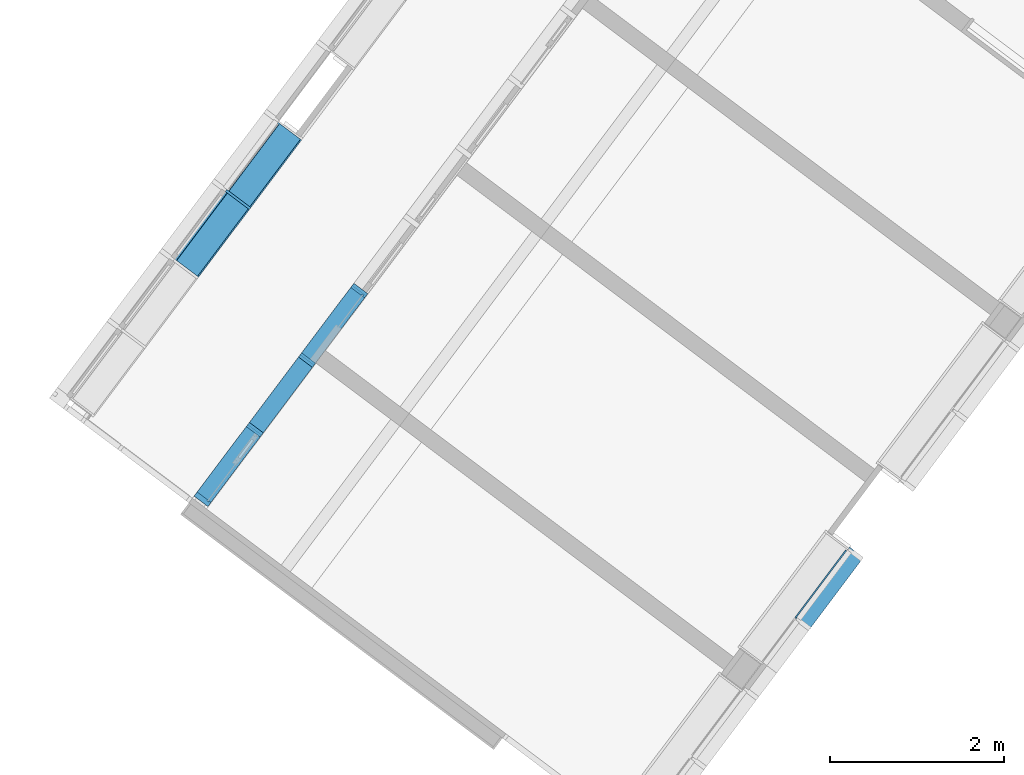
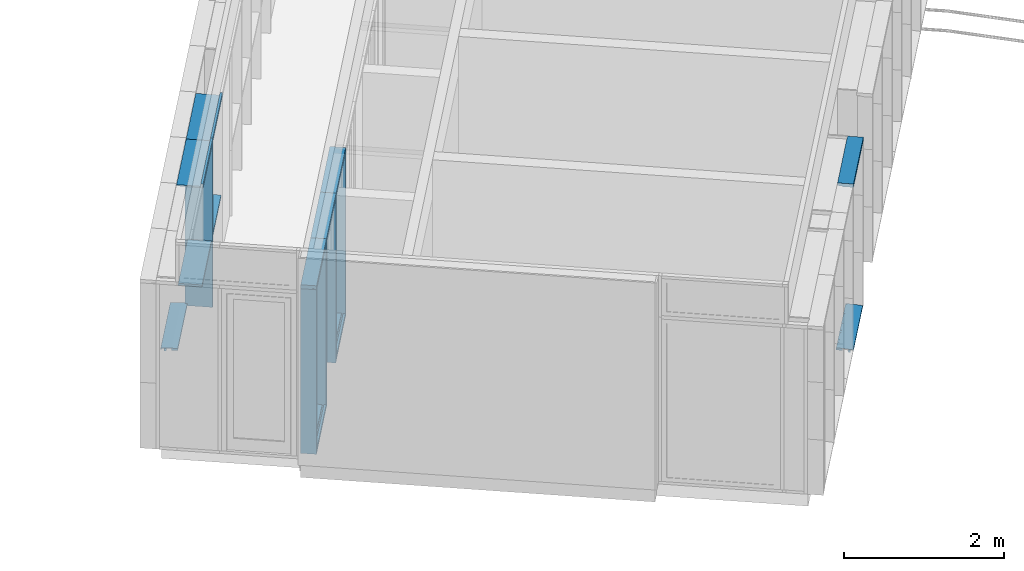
# One storey, part 16 of 243: 18 members, 4 elements without a shape of their own.
"""IFC2X3 building model written with IfcOpenShell, lengths in metres."""

from ifc_helpers import new_model, entity, si_unit, converted_unit, derived_unit, direction, frame, frame_2d, origin, place, context, subcontext, project, spatial, polyline, circle_curve, parameter, trimmed, segment, composite_curve, rectangle, outline, extrude, source, transform, mapped, material, type_object, type_shapes, element, aggregate, save


model = new_model("IFC2X3")

# Units and contexts
model_context = context("Model", 3, precision=1e-05, world=origin(), true_north=direction((6.123031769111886e-17, 1.0)))
body_context = subcontext(model_context, "Body", "Model", "MODEL_VIEW")
ifc_project = project(units=[si_unit("LENGTHUNIT", "METRE"), si_unit("AREAUNIT", "SQUARE_METRE"), si_unit("VOLUMEUNIT", "CUBIC_METRE"), converted_unit("PLANEANGLEUNIT", "DEGREE", entity("IfcRatioMeasure", 0.017453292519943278), si_unit("PLANEANGLEUNIT", "RADIAN"), dimensions=[0, 0, 0, 0, 0, 0, 0]), si_unit("MASSUNIT", "GRAM", prefix="KILO"), derived_unit("MASSDENSITYUNIT", [(si_unit("MASSUNIT", "GRAM", prefix="KILO"), 1), (si_unit("LENGTHUNIT", "METRE"), -3)]), derived_unit("IONCONCENTRATIONUNIT", [(si_unit("MASSUNIT", "GRAM", prefix="KILO"), 1), (si_unit("LENGTHUNIT", "METRE"), -3)]), derived_unit("MOMENTOFINERTIAUNIT", [(si_unit("LENGTHUNIT", "METRE"), 4)]), si_unit("TIMEUNIT", "SECOND"), si_unit("FREQUENCYUNIT", "HERTZ"), si_unit("THERMODYNAMICTEMPERATUREUNIT", "DEGREE_CELSIUS"), derived_unit("THERMALTRANSMITTANCEUNIT", [(si_unit("MASSUNIT", "GRAM", prefix="KILO"), 1), (si_unit("THERMODYNAMICTEMPERATUREUNIT", "KELVIN"), -1), (si_unit("TIMEUNIT", "SECOND"), -3)]), derived_unit("THERMALCONDUCTANCEUNIT", [(si_unit("MASSUNIT", "GRAM", prefix="KILO"), 1), (si_unit("THERMODYNAMICTEMPERATUREUNIT", "KELVIN"), -1), (si_unit("TIMEUNIT", "SECOND"), -3), (si_unit("LENGTHUNIT", "METRE"), 1)]), derived_unit("VOLUMETRICFLOWRATEUNIT", [(si_unit("LENGTHUNIT", "METRE"), 3), (si_unit("TIMEUNIT", "SECOND"), -1)]), derived_unit("MASSFLOWRATEUNIT", [(si_unit("MASSUNIT", "GRAM", prefix="KILO"), 1), (si_unit("TIMEUNIT", "SECOND"), -1)]), derived_unit("ROTATIONALFREQUENCYUNIT", [(si_unit("TIMEUNIT", "SECOND"), -1)]), si_unit("ELECTRICCURRENTUNIT", "AMPERE"), si_unit("ELECTRICVOLTAGEUNIT", "VOLT"), si_unit("POWERUNIT", "WATT"), si_unit("FORCEUNIT", "NEWTON", prefix="KILO"), si_unit("ILLUMINANCEUNIT", "LUX"), si_unit("LUMINOUSFLUXUNIT", "LUMEN"), si_unit("LUMINOUSINTENSITYUNIT", "CANDELA"), derived_unit("USERDEFINED", [(si_unit("MASSUNIT", "GRAM", prefix="KILO"), -1), (si_unit("LENGTHUNIT", "METRE"), -2), (si_unit("TIMEUNIT", "SECOND"), 3), (si_unit("LUMINOUSFLUXUNIT", "LUMEN"), 1)]), derived_unit("USERDEFINED", [(si_unit("MASSUNIT", "GRAM", prefix="KILO"), 1), (si_unit("TIMEUNIT", "SECOND"), -3), (si_unit("LENGTHUNIT", "METRE"), 3), (si_unit("ELECTRICCURRENTUNIT", "AMPERE"), -2)]), derived_unit("SOUNDPOWERUNIT", [(si_unit("MASSUNIT", "GRAM", prefix="KILO"), 1), (si_unit("TIMEUNIT", "SECOND"), -3), (si_unit("LENGTHUNIT", "METRE"), 2)]), derived_unit("SOUNDPRESSUREUNIT", [(si_unit("MASSUNIT", "GRAM", prefix="KILO"), 1), (si_unit("LENGTHUNIT", "METRE"), -1), (si_unit("TIMEUNIT", "SECOND"), -2)]), derived_unit("LINEARVELOCITYUNIT", [(si_unit("LENGTHUNIT", "METRE"), 1), (si_unit("TIMEUNIT", "SECOND"), -1)]), si_unit("PRESSUREUNIT", "PASCAL"), derived_unit("USERDEFINED", [(si_unit("MASSUNIT", "GRAM", prefix="KILO"), 1), (si_unit("LENGTHUNIT", "METRE"), -2), (si_unit("TIMEUNIT", "SECOND"), -2)]), derived_unit("LINEARFORCEUNIT", [(si_unit("MASSUNIT", "GRAM", prefix="KILO"), 1), (si_unit("TIMEUNIT", "SECOND"), -2)]), derived_unit("PLANARFORCEUNIT", [(si_unit("MASSUNIT", "GRAM", prefix="KILO"), 1), (si_unit("LENGTHUNIT", "METRE"), -1), (si_unit("TIMEUNIT", "SECOND"), -2)]), derived_unit("SPECIFICHEATCAPACITYUNIT", [(si_unit("THERMODYNAMICTEMPERATUREUNIT", "KELVIN"), -1), (si_unit("LENGTHUNIT", "METRE"), 2), (si_unit("TIMEUNIT", "SECOND"), -2)]), derived_unit("HEATINGVALUEUNIT", [(si_unit("LENGTHUNIT", "METRE"), 2), (si_unit("TIMEUNIT", "SECOND"), -2)]), derived_unit("VAPORPERMEABILITYUNIT", [(si_unit("LENGTHUNIT", "METRE"), -1), (si_unit("TIMEUNIT", "SECOND"), 1)]), derived_unit("DYNAMICVISCOSITYUNIT", [(si_unit("MASSUNIT", "GRAM", prefix="KILO"), 1), (si_unit("TIMEUNIT", "SECOND"), -1), (si_unit("LENGTHUNIT", "METRE"), -1)]), derived_unit("THERMALEXPANSIONCOEFFICIENTUNIT", [(si_unit("THERMODYNAMICTEMPERATUREUNIT", "KELVIN"), -1)]), derived_unit("MODULUSOFELASTICITYUNIT", [(si_unit("MASSUNIT", "GRAM", prefix="KILO"), 1), (si_unit("LENGTHUNIT", "METRE"), -1), (si_unit("TIMEUNIT", "SECOND"), -2)]), derived_unit("ISOTHERMALMOISTURECAPACITYUNIT", [(si_unit("LENGTHUNIT", "METRE"), 3), (si_unit("MASSUNIT", "GRAM", prefix="KILO"), -1)]), derived_unit("MOISTUREDIFFUSIVITYUNIT", [(si_unit("TIMEUNIT", "SECOND"), -1), (si_unit("LENGTHUNIT", "METRE"), 2)])], contexts=[model_context])

# Site, building, storey
site_placement = place(None, frame((0.0, 0.0, 235.0), z_axis=(0.0, 0.0, 1.0), x_axis=(-0.7996477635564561, 0.6004693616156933, 0.0)))
site = spatial("IfcSite", under=ifc_project, at=site_placement, Name="Default", CompositionType="ELEMENT")
building_placement = place(site_placement, origin())
building = spatial("IfcBuilding", under=site, at=building_placement, CompositionType="ELEMENT")
storey_placement = place(building_placement, origin())
storey = spatial("IfcBuildingStorey", under=building, at=storey_placement, Name="P0- Escola", CompositionType="ELEMENT", Elevation=0.0)

# Curtain wall, members
curtain_wall_type_1 = type_object("IfcCurtainWallType", Name="Muro cortina:MC- INT- a2", PredefinedType="NOTDEFINED")
curtain_wall_1_placement = place(storey_placement, origin())
curtain_wall_1 = element("IfcCurtainWall", 1, at=curtain_wall_1_placement, inside=storey, type_object=curtain_wall_type_1, Name="Muro cortina:MC- INT- a2", ObjectType="Muro cortina:MC- INT- a2")
ifc_material_1 = material(Name="_Fusta massisa- T1")
member_type_1 = type_object("IfcMemberType", Name="Montante rectangular:MC- Fusta- 20x6 cm- Neutre", PredefinedType="MULLION", material=ifc_material_1)
shared_shape_1 = source(origin(), body_context, "Body", "SweptSolid", [
    extrude(rectangle(XDim=0.2, YDim=0.06, at=frame_2d((-5.551115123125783e-17, 0.0), x_axis=(1.0, 0.0))), frame((0.0, 0.060000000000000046, -2.5050000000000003), z_axis=(0.0, 0.0, 1.0), x_axis=(0.0, -1.0, 0.0)), (0.0, 0.0, 1.0), 2.5050000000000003),
])
type_shapes(member_type_1, [shared_shape_1])
member_1_placement = place(curtain_wall_1_placement, frame((34.62014768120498, -22.415191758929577, 0.0), z_axis=(0.0, 0.0, -1.0), x_axis=(0.0, 1.0, 0.0)))
member_1 = element("IfcMember", 2, at=member_1_placement, type_object=member_type_1, material=ifc_material_1, Name="Montante rectangular:MC- Fusta- 20x6 cm- Neutre", ObjectType="Montante rectangular:MC- Fusta- 20x6 cm- Neutre", context=body_context, shape_type="MappedRepresentation", body=[
    mapped(shared_shape_1, transform((0.0, 0.0, 0.0), scale=1.0)),
])
member_2_placement = place(curtain_wall_1_placement, frame((34.62014768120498, -21.415191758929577, 0.0), z_axis=(0.0, 0.0, -1.0), x_axis=(0.0, 1.0, 0.0)))
member_2 = element("IfcMember", 3, at=member_2_placement, type_object=member_type_1, material=ifc_material_1, Name="Montante rectangular:MC- Fusta- 20x6 cm- Neutre", ObjectType="Montante rectangular:MC- Fusta- 20x6 cm- Neutre", context=body_context, shape_type="MappedRepresentation", body=[
    mapped(shared_shape_1, transform((0.0, 0.0, 0.0), scale=1.0)),
])
member_type_2 = type_object("IfcMemberType", Name="Montante rectangular:MC- Fusta- 20x6 cm- Neutre", PredefinedType="MULLION", material=ifc_material_1)
shared_shape_2 = source(origin(), body_context, "Body", "SweptSolid", [
    extrude(rectangle(XDim=0.20000000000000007, YDim=0.06, at=frame_2d((-5.551115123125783e-17, 0.0), x_axis=(1.0, 0.0))), frame((-0.03, 0.06000000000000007, -1.0), z_axis=(0.0, 0.0, 1.0), x_axis=(0.0, -1.0, 0.0)), (0.0, 0.0, 1.0), 0.9999999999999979),
])
type_shapes(member_type_2, [shared_shape_2])
member_3_placement = place(curtain_wall_1_placement, frame((34.62014768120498, -21.415191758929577, 2.565), z_axis=(0.0, 1.0, 0.0), x_axis=(0.0, 0.0, 1.0)))
member_3 = element("IfcMember", 4, at=member_3_placement, type_object=member_type_2, material=ifc_material_1, Name="Montante rectangular:MC- Fusta- 20x6 cm- Neutre", ObjectType="Montante rectangular:MC- Fusta- 20x6 cm- Neutre", context=body_context, shape_type="MappedRepresentation", body=[
    mapped(shared_shape_2, transform((0.0, 0.0, 0.0), scale=1.0)),
])
member_type_3 = type_object("IfcMemberType", Name="Montante rectangular:MC- Fusta- 20x6 cm- Dreta", PredefinedType="MULLION", material=ifc_material_1)
shared_shape_3 = source(origin(), body_context, "Body", "SweptSolid", [
    extrude(outline(polyline([(-0.13000000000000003, -0.041249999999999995), (0.07000000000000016, -0.041249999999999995), (0.06999999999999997, 0.01875), (0.039999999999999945, 0.01875), (0.03999999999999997, 0.00375), (0.019999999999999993, 0.00375), (0.019999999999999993, 0.01875), (-0.13000000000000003, 0.01875), (-0.13000000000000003, -0.041249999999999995)])), frame((0.011250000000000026, 0.029999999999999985, -2.5050000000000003), z_axis=(0.0, 0.0, 1.0), x_axis=(0.0, -1.0, 0.0)), (0.0, 0.0, 1.0), 2.5050000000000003),
])
type_shapes(member_type_3, [shared_shape_3])
member_4_placement = place(curtain_wall_1_placement, frame((34.62014768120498, -23.415191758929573, 0.0), z_axis=(0.0, 0.0, -1.0), x_axis=(0.0, 1.0, 0.0)))
member_4 = element("IfcMember", 5, at=member_4_placement, type_object=member_type_3, material=ifc_material_1, Name="Montante rectangular:MC- Fusta- 20x6 cm- Dreta", ObjectType="Montante rectangular:MC- Fusta- 20x6 cm- Dreta", context=body_context, shape_type="MappedRepresentation", body=[
    mapped(shared_shape_3, transform((0.0, 0.0, 0.0), scale=1.0)),
])
member_type_4 = type_object("IfcMemberType", Name="Montante rectangular:MC- Fusta- 20x6 cm- Inferior", PredefinedType="MULLION", material=ifc_material_1)
shared_shape_4 = source(origin(), body_context, "Body", "SweptSolid", [
    extrude(outline(polyline([(-0.12999999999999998, -0.018750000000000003), (0.01999999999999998, -0.018750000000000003), (0.01999999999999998, -0.0037500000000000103), (0.04, -0.0037500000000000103), (0.039999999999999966, -0.018750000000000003), (0.06999999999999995, -0.018750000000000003), (0.07000000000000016, 0.041249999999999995), (-0.12999999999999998, 0.041249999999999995), (-0.12999999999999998, -0.018750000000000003)])), frame((-0.041249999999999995, 0.029999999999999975, -0.9399999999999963), z_axis=(0.0, 0.0, 1.0), x_axis=(0.0, -1.0, 0.0)), (0.0, 0.0, 1.0), 0.9399999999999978),
])
type_shapes(member_type_4, [shared_shape_4])
member_5_placement = place(curtain_wall_1_placement, frame((34.62014768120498, -23.385191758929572, 0.0), z_axis=(0.0, -1.0, 0.0), x_axis=(0.0, 0.0, -1.0)))
member_5 = element("IfcMember", 6, at=member_5_placement, type_object=member_type_4, material=ifc_material_1, Name="Montante rectangular:MC- Fusta- 20x6 cm- Inferior", ObjectType="Montante rectangular:MC- Fusta- 20x6 cm- Inferior", context=body_context, shape_type="MappedRepresentation", body=[
    mapped(shared_shape_4, transform((0.0, 0.0, 0.0), scale=1.0)),
])
member_6_placement = place(curtain_wall_1_placement, frame((34.62014768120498, -21.385191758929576, 0.0), z_axis=(0.0, -1.0, 0.0), x_axis=(0.0, 0.0, -1.0)))
member_6 = element("IfcMember", 7, at=member_6_placement, type_object=member_type_4, material=ifc_material_1, Name="Montante rectangular:MC- Fusta- 20x6 cm- Inferior", ObjectType="Montante rectangular:MC- Fusta- 20x6 cm- Inferior", context=body_context, shape_type="MappedRepresentation", body=[
    mapped(shared_shape_4, transform((0.0, 0.0, 0.0), scale=1.0)),
])
member_type_5 = type_object("IfcMemberType", Name="Montante rectangular:MC- Fusta- 20x6 cm- Esquerra", PredefinedType="MULLION", material=ifc_material_1)
shared_shape_5 = source(origin(), body_context, "Body", "SweptSolid", [
    extrude(outline(polyline([(-0.13, -0.018750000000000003), (0.02, -0.018750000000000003), (0.02, -0.003750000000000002), (0.04000000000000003, -0.003750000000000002), (0.04000000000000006, -0.01875000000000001), (0.07000000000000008, -0.018750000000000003), (0.06999999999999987, 0.041249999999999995), (-0.13, 0.041249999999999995), (-0.13, -0.018750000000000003)])), frame((-0.041249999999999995, 0.029999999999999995, -2.5050000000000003), z_axis=(0.0, 0.0, 1.0), x_axis=(0.0, -1.0, 0.0)), (0.0, 0.0, 1.0), 2.5050000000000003),
])
type_shapes(member_type_5, [shared_shape_5])
member_7_placement = place(curtain_wall_1_placement, frame((34.62014768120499, -20.38519175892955, 0.0), z_axis=(0.0, 0.0, -1.0), x_axis=(0.0, 1.0, 0.0)))
member_7 = element("IfcMember", 8, at=member_7_placement, type_object=member_type_5, material=ifc_material_1, Name="Montante rectangular:MC- Fusta- 20x6 cm- Esquerra", ObjectType="Montante rectangular:MC- Fusta- 20x6 cm- Esquerra", context=body_context, shape_type="MappedRepresentation", body=[
    mapped(shared_shape_5, transform((0.0, 0.0, 0.0), scale=1.0)),
])
member_type_6 = type_object("IfcMemberType", Name="Montante rectangular:MC- Fusta- 20x6 cm- Esquerra", PredefinedType="MULLION", material=ifc_material_1)
shared_shape_6 = source(origin(), body_context, "Body", "SweptSolid", [
    extrude(outline(polyline([(-0.13000000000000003, -0.018750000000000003), (0.020000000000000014, -0.018750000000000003), (0.020000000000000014, -0.003750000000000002), (0.040000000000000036, -0.003750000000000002), (0.04000000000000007, -0.01875000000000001), (0.07000000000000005, -0.018750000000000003), (0.06999999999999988, 0.041249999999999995), (-0.13000000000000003, 0.041249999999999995), (-0.13000000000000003, -0.018750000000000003)])), frame((-0.041249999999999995, 0.030000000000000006, -1.0300000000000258), z_axis=(0.0, 0.0, 1.0), x_axis=(0.0, -1.0, 0.0)), (0.0, 0.0, 1.0), 1.0300000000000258),
])
type_shapes(member_type_6, [shared_shape_6])
member_8_placement = place(curtain_wall_1_placement, frame((34.62014768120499, -20.38519175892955, 2.565), z_axis=(0.0, 1.0, 0.0), x_axis=(0.0, 0.0, 1.0)))
member_8 = element("IfcMember", 9, at=member_8_placement, type_object=member_type_6, material=ifc_material_1, Name="Montante rectangular:MC- Fusta- 20x6 cm- Esquerra", ObjectType="Montante rectangular:MC- Fusta- 20x6 cm- Esquerra", context=body_context, shape_type="MappedRepresentation", body=[
    mapped(shared_shape_6, transform((0.0, 0.0, 0.0), scale=1.0)),
])
member_type_7 = type_object("IfcMemberType", Name="Montante rectangular:MC- Fusta- 20x6 cm- Esquerra", PredefinedType="MULLION", material=ifc_material_1)
shared_shape_7 = source(origin(), body_context, "Body", "SweptSolid", [
    extrude(outline(polyline([(-0.13000000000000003, -0.018750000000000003), (0.020000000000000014, -0.018750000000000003), (0.020000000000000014, -0.003750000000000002), (0.040000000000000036, -0.003750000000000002), (0.04000000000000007, -0.01875000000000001), (0.07000000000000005, -0.018750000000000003), (0.06999999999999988, 0.041249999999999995), (-0.13000000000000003, 0.041249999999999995), (-0.13000000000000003, -0.018750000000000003)])), frame((-0.041249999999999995, 0.030000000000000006, -1.0), z_axis=(0.0, 0.0, 1.0), x_axis=(0.0, -1.0, 0.0)), (0.0, 0.0, 1.0), 0.9999999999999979),
])
type_shapes(member_type_7, [shared_shape_7])
member_9_placement = place(curtain_wall_1_placement, frame((34.62014768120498, -22.415191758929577, 2.565), z_axis=(0.0, 1.0, 0.0), x_axis=(0.0, 0.0, 1.0)))
member_9 = element("IfcMember", 10, at=member_9_placement, type_object=member_type_7, material=ifc_material_1, Name="Montante rectangular:MC- Fusta- 20x6 cm- Esquerra", ObjectType="Montante rectangular:MC- Fusta- 20x6 cm- Esquerra", context=body_context, shape_type="MappedRepresentation", body=[
    mapped(shared_shape_7, transform((0.0, 0.0, 0.0), scale=1.0)),
])
aggregate(curtain_wall_1, [member_7, member_8, member_4, member_9, member_1, member_3, member_2, member_5, member_6])

curtain_wall_type_2 = type_object("IfcCurtainWallType", Name="Muro cortina:MC- INT- k2", PredefinedType="NOTDEFINED")
curtain_wall_2_placement = place(storey_placement, origin())
curtain_wall_2 = element("IfcCurtainWall", 11, at=curtain_wall_2_placement, inside=storey, type_object=curtain_wall_type_2, Name="Muro cortina:MC- INT- k2", ObjectType="Muro cortina:MC- INT- k2")
member_type_8 = type_object("IfcMemberType", Name="Montante rectangular:MC- Fusta- 35x3 cm- Centre", PredefinedType="MULLION", material=ifc_material_1)
shared_shape_8 = source(origin(), body_context, "Body", "SweptSolid", [
    extrude(rectangle(XDim=0.3450000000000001, YDim=0.030000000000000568, at=frame_2d((0.0, -1.3964523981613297e-16), x_axis=(1.0, 0.0))), frame((0.0, -0.07750000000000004, -1.0), z_axis=(0.0, 0.0, 1.0), x_axis=(0.0, -1.0, 0.0)), (0.0, 0.0, 1.0), 1.0),
])
type_shapes(member_type_8, [shared_shape_8])
member_10_placement = place(curtain_wall_2_placement, frame((36.345147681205, -23.4151917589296, 0.0), z_axis=(0.0, 0.0, -1.0), x_axis=(0.0, -1.0, 0.0)))
member_10 = element("IfcMember", 12, at=member_10_placement, type_object=member_type_8, material=ifc_material_1, Name="Montante rectangular:MC- Fusta- 35x3 cm- Centre", ObjectType="Montante rectangular:MC- Fusta- 35x3 cm- Centre", context=body_context, shape_type="MappedRepresentation", body=[
    mapped(shared_shape_8, transform((0.0, 0.0, 0.0), scale=1.0)),
])
member_type_9 = type_object("IfcMemberType", Name="Montante rectangular:MC- Fusta- 35x3 cm- Pati aules- Remat superior", PredefinedType="MULLION", material=ifc_material_1)
shared_shape_9 = source(origin(), body_context, "Body", "SweptSolid", [
    extrude(outline(polyline([(-0.12166666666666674, -0.02666666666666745), (0.21333333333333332, -0.02666666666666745), (0.2133333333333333, -0.006666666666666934), (-0.09166666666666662, -0.006666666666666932), (-0.09166666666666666, 0.03333333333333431), (-0.12166666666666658, 0.03333333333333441), (-0.12166666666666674, -0.02666666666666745)])), frame((-0.033333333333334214, -0.026666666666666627, -1.0), z_axis=(0.0, 0.0, 1.0), x_axis=(0.0, -1.0, 0.0)), (0.0, 0.0, 1.0), 0.9999999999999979),
])
type_shapes(member_type_9, [shared_shape_9])
member_11_placement = place(curtain_wall_2_placement, frame((36.345147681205, -23.4151917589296, 2.565), z_axis=(0.0, -1.0, 0.0), x_axis=(0.0, 0.0, 1.0)))
member_11 = element("IfcMember", 13, at=member_11_placement, type_object=member_type_9, material=ifc_material_1, Name="Montante rectangular:MC- Fusta- 35x3 cm- Pati aules- Remat superior", ObjectType="Montante rectangular:MC- Fusta- 35x3 cm- Pati aules- Remat superior", context=body_context, shape_type="MappedRepresentation", body=[
    mapped(shared_shape_9, transform((0.0, 0.0, 0.0), scale=1.0)),
])
member_type_10 = type_object("IfcMemberType", Name="Montante rectangular:MC- Fusta- 35x3 cm- Pati aules- Remat superior", PredefinedType="MULLION", material=ifc_material_1)
shared_shape_10 = source(origin(), body_context, "Body", "SweptSolid", [
    extrude(outline(polyline([(-0.12166666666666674, -0.02666666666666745), (0.21333333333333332, -0.02666666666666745), (0.2133333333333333, -0.006666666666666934), (-0.09166666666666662, -0.006666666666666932), (-0.09166666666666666, 0.03333333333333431), (-0.12166666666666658, 0.03333333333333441), (-0.12166666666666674, -0.02666666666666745)])), frame((-0.033333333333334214, -0.026666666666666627, -1.0), z_axis=(0.0, 0.0, 1.0), x_axis=(0.0, -1.0, 0.0)), (0.0, 0.0, 1.0), 0.9999999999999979),
])
type_shapes(member_type_10, [shared_shape_10])
member_12_placement = place(curtain_wall_2_placement, frame((36.345147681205, -24.4151917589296, 2.565), z_axis=(0.0, -1.0, 0.0), x_axis=(0.0, 0.0, 1.0)))
member_12 = element("IfcMember", 14, at=member_12_placement, type_object=member_type_10, material=ifc_material_1, Name="Montante rectangular:MC- Fusta- 35x3 cm- Pati aules- Remat superior", ObjectType="Montante rectangular:MC- Fusta- 35x3 cm- Pati aules- Remat superior", context=body_context, shape_type="MappedRepresentation", body=[
    mapped(shared_shape_10, transform((0.0, 0.0, 0.0), scale=1.0)),
])
member_type_11 = type_object("IfcMemberType", Name="Montante rectangular:MC- Fusta- 35x3 cm- Pati aules- Prestatge", PredefinedType="MULLION", material=ifc_material_1)
shared_shape_11 = source(origin(), body_context, "Body", "SweptSolid", [
    extrude(rectangle(XDim=0.30000000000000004, YDim=0.03000000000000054, at=frame_2d((0.0, -1.231653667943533e-16), x_axis=(1.0, 0.0))), frame((0.0, -0.07000000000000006, -0.9699999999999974), z_axis=(0.0, 0.0, 1.0), x_axis=(0.0, -1.0, 0.0)), (0.0, 0.0, 1.0), 0.969999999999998),
])
type_shapes(member_type_11, [shared_shape_11])
member_13_placement = place(curtain_wall_2_placement, frame((36.345147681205, -23.400191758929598, 1.0), z_axis=(0.0, -1.0, 0.0), x_axis=(0.0, 0.0, 1.0)))
member_13 = element("IfcMember", 15, at=member_13_placement, type_object=member_type_11, material=ifc_material_1, Name="Montante rectangular:MC- Fusta- 35x3 cm- Pati aules- Prestatge", ObjectType="Montante rectangular:MC- Fusta- 35x3 cm- Pati aules- Prestatge", context=body_context, shape_type="MappedRepresentation", body=[
    mapped(shared_shape_11, transform((0.0, 0.0, 0.0), scale=1.0)),
])
member_14_placement = place(curtain_wall_2_placement, frame((36.345147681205, -24.400191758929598, 1.0), z_axis=(0.0, -1.0, 0.0), x_axis=(0.0, 0.0, 1.0)))
member_14 = element("IfcMember", 16, at=member_14_placement, type_object=member_type_11, material=ifc_material_1, Name="Montante rectangular:MC- Fusta- 35x3 cm- Pati aules- Prestatge", ObjectType="Montante rectangular:MC- Fusta- 35x3 cm- Pati aules- Prestatge", context=body_context, shape_type="MappedRepresentation", body=[
    mapped(shared_shape_11, transform((0.0, 0.0, 0.0), scale=1.0)),
])
member_type_12 = type_object("IfcMemberType", Name="Montante rectangular:MC- Fusta- 35x3 cm- Centre", PredefinedType="MULLION", material=ifc_material_1)
shared_shape_12 = source(origin(), body_context, "Body", "SweptSolid", [
    extrude(rectangle(XDim=0.3450000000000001, YDim=0.030000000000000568, at=frame_2d((0.0, -1.3964523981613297e-16), x_axis=(1.0, 0.0))), frame((0.0, -0.07750000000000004, -1.504999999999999), z_axis=(0.0, 0.0, 1.0), x_axis=(0.0, -1.0, 0.0)), (0.0, 0.0, 1.0), 1.504999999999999),
])
type_shapes(member_type_12, [shared_shape_12])
member_15_placement = place(curtain_wall_2_placement, frame((36.345147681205, -23.4151917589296, 1.0), z_axis=(0.0, 0.0, -1.0), x_axis=(0.0, -1.0, 0.0)))
member_15 = element("IfcMember", 17, at=member_15_placement, type_object=member_type_12, material=ifc_material_1, Name="Montante rectangular:MC- Fusta- 35x3 cm- Centre", ObjectType="Montante rectangular:MC- Fusta- 35x3 cm- Centre", context=body_context, shape_type="MappedRepresentation", body=[
    mapped(shared_shape_12, transform((0.0, 0.0, 0.0), scale=1.0)),
])
aggregate(curtain_wall_2, [member_11, member_10, member_12, member_13, member_14, member_15])

curtain_wall_type_3 = type_object("IfcCurtainWallType", Name="Muro cortina:MC- EXT- MC2", PredefinedType="NOTDEFINED")
curtain_wall_3_placement = place(storey_placement, origin())
curtain_wall_3 = element("IfcCurtainWall", 18, at=curtain_wall_3_placement, inside=storey, type_object=curtain_wall_type_3, Name="Muro cortina:MC- EXT- MC2", ObjectType="Muro cortina:MC- EXT- MC2")
ifc_material_2 = material(Name="_Alumini- T1- Perfil")
member_type_13 = type_object("IfcMemberType", Name="Montante rectangular:MC- Alu- 140x52,5 cm- Fa patis- inferior", PredefinedType="MULLION", material=ifc_material_2)
shared_shape_13 = source(origin(), body_context, "Body", "SweptSolid", [
    extrude(outline(composite_curve([segment(polyline([(0.1278672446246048, -0.02586710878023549), (0.14416724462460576, -0.025867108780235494)]), True, "CONTINUOUS"), segment(polyline([(0.14416724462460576, -0.025867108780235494), (0.1441672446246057, 0.009132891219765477)]), True, "CONTINUOUS"), segment(polyline([(0.1441672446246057, 0.009132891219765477), (0.06786724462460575, 0.009132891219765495)]), True, "CONTINUOUS"), segment(polyline([(0.06786724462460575, 0.009132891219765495), (0.06786724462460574, -0.021159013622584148)]), True, "CONTINUOUS"), segment(polyline([(0.06786724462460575, -0.02115901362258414), (-0.030132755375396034, -0.012332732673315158)]), True, "CONTINUOUS"), segment(polyline([(-0.03013275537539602, -0.012332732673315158), (-0.030132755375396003, 0.027132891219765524)]), True, "CONTINUOUS"), segment(polyline([(-0.030132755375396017, 0.02713289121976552), (-0.0021327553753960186, 0.02713289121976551)]), True, "CONTINUOUS"), segment(polyline([(-0.0021327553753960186, 0.027132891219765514), (-0.0021327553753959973, 0.029132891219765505)]), True, "CONTINUOUS"), segment(polyline([(-0.0021327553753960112, 0.029132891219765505), (-0.032132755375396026, 0.029132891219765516)]), True, "CONTINUOUS"), segment(polyline([(-0.032132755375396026, 0.029132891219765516), (-0.03213275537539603, -0.012152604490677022)]), True, "CONTINUOUS"), segment(polyline([(-0.03213275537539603, -0.012152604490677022), (-0.0701327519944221, -0.008730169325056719)]), True, "CONTINUOUS"), segment(polyline([(-0.0701327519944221, -0.008730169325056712), (-0.0701327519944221, 0.005766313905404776)]), True, "CONTINUOUS"), segment(trimmed(circle_curve(frame_2d((-0.0696327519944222, 0.0057663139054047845), x_axis=(-1.0, 0.0)), 0.0004999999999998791), [parameter(269.999999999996)], [parameter(0.0)], True, "PARAMETER"), False, "CONTINUOUS"), segment(polyline([(-0.0696327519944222, 0.00626631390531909), (-0.06213275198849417, 0.006266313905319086)]), True, "CONTINUOUS"), segment(polyline([(-0.06213275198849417, 0.006266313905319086), (-0.06213275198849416, 0.008266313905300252)]), True, "CONTINUOUS"), segment(polyline([(-0.06213275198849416, 0.008266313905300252), (-0.07013275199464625, 0.008266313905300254)]), True, "CONTINUOUS"), segment(trimmed(circle_curve(frame_2d((-0.07013275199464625, 0.006266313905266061), x_axis=(0.0, 1.0)), 0.0020000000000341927), [parameter(0.0)], [parameter(90.00000002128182)], True, "PARAMETER"), True, "CONTINUOUS"), segment(polyline([(-0.07213275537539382, 0.006266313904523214), (-0.07213275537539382, -0.008730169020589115)]), True, "CONTINUOUS"), segment(trimmed(circle_curve(frame_2d((-0.07013275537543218, -0.008730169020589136), x_axis=(-1.0, 0.0)), 0.0019999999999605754), [parameter(0.0)], [parameter(84.85359280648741)], True, "PARAMETER"), True, "CONTINUOUS"), segment(polyline([(-0.07031215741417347, -0.01072210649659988), (0.06786724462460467, -0.023167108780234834)]), True, "CONTINUOUS"), segment(polyline([(0.06786724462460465, -0.023167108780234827), (0.12786724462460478, -0.023167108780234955)]), True, "CONTINUOUS"), segment(polyline([(0.12786724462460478, -0.023167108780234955), (0.1278672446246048, -0.02586710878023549)]), True, "CONTINUOUS")], self_intersect=False)), frame((-0.029132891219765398, 0.06786724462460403, -0.9737499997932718), z_axis=(0.0, 0.0, 1.0), x_axis=(0.0, -1.0, 0.0)), (0.0, 0.0, 1.0), 0.9737499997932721),
])
type_shapes(member_type_13, [shared_shape_13])
member_16_placement = place(curtain_wall_3_placement, frame((28.34514768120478, -23.415191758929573, -0.02), z_axis=(0.0, 1.0, 0.0), x_axis=(0.0, 0.0, -1.0)))
member_16 = element("IfcMember", 19, at=member_16_placement, type_object=member_type_13, material=ifc_material_2, Name="Montante rectangular:MC- Alu- 140x52,5 cm- Fa patis- inferior", ObjectType="Montante rectangular:MC- Alu- 140x52,5 cm- Fa patis- inferior", context=body_context, shape_type="MappedRepresentation", body=[
    mapped(shared_shape_13, transform((0.0, 0.0, 0.0), scale=1.0)),
])
member_type_14 = type_object("IfcMemberType", Name="Montante rectangular:MC- Alu- 140x52,5 cm- Fa patis- Superior", PredefinedType="MULLION", material=ifc_material_2)
shared_shape_14 = source(origin(), body_context, "Body", "SweptSolid", [
    extrude(outline(polyline([(-0.11366666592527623, -0.021249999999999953), (0.026333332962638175, -0.021249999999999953), (0.026333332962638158, -0.010000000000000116), (0.08733333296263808, -0.010000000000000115), (0.08733333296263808, 0.03125000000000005), (-0.11366666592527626, 0.031250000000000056), (-0.11366666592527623, -0.021249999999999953)])), frame((-0.031250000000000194, 0.0273333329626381, -1.0262500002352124), z_axis=(0.0, 0.0, 1.0), x_axis=(0.0, -1.0, 0.0)), (0.0, 0.0, 1.0), 1.0262500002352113),
])
type_shapes(member_type_14, [shared_shape_14])
member_17_placement = place(curtain_wall_3_placement, frame((28.345147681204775, -24.441441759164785, 2.545), z_axis=(0.0, -1.0, 0.0), x_axis=(0.0, 0.0, 1.0)))
member_17 = element("IfcMember", 20, at=member_17_placement, type_object=member_type_14, material=ifc_material_2, Name="Montante rectangular:MC- Alu- 140x52,5 cm- Fa patis- Superior", ObjectType="Montante rectangular:MC- Alu- 140x52,5 cm- Fa patis- Superior", context=body_context, shape_type="MappedRepresentation", body=[
    mapped(shared_shape_14, transform((0.0, 0.0, 0.0), scale=1.0)),
])
aggregate(curtain_wall_3, [member_16, member_17])

# Curtain wall, member
curtain_wall_type_4 = type_object("IfcCurtainWallType", Name="Muro cortina:MC- EXT- MC5", PredefinedType="NOTDEFINED")
curtain_wall_4_placement = place(storey_placement, origin())
curtain_wall_4 = element("IfcCurtainWall", 21, at=curtain_wall_4_placement, inside=storey, type_object=curtain_wall_type_4, Name="Muro cortina:MC- EXT- MC5", ObjectType="Muro cortina:MC- EXT- MC5")
member_type_15 = type_object("IfcMemberType", Name="Montante rectangular:MC- Alu- 140x52,5 cm- Fa patis- inferior", PredefinedType="MULLION", material=ifc_material_2)
shared_shape_15 = source(origin(), body_context, "Body", "SweptSolid", [
    extrude(outline(composite_curve([segment(polyline([(-0.144167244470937, -0.02586710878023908), (-0.12786724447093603, -0.025867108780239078)]), True, "CONTINUOUS"), segment(polyline([(-0.12786724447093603, -0.025867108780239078), (-0.12786724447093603, -0.023167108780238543)]), True, "CONTINUOUS"), segment(polyline([(-0.12786724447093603, -0.023167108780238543), (-0.0678672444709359, -0.023167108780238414)]), True, "CONTINUOUS"), segment(polyline([(-0.0678672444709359, -0.023167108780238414), (0.07031215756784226, -0.01072210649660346)]), True, "CONTINUOUS"), segment(trimmed(circle_curve(frame_2d((0.07013275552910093, -0.00873016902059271), x_axis=(0.0897010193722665, -0.9959687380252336)), 0.0019999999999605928), [parameter(0.0)], [parameter(84.85359280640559)], True, "PARAMETER"), True, "CONTINUOUS"), segment(polyline([(0.07213275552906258, -0.008730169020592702), (0.07213275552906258, 0.006266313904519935)]), True, "CONTINUOUS"), segment(trimmed(circle_curve(frame_2d((0.070132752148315, 0.0062663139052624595), x_axis=(1.0, 0.0)), 0.0020000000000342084), [parameter(0.0)], [parameter(90.00000002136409)], True, "PARAMETER"), True, "CONTINUOUS"), segment(polyline([(0.070132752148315, 0.008266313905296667), (0.06213275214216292, 0.008266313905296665)]), True, "CONTINUOUS"), segment(polyline([(0.06213275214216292, 0.008266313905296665), (0.06213275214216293, 0.006266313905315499)]), True, "CONTINUOUS"), segment(polyline([(0.06213275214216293, 0.006266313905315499), (0.06963275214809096, 0.006266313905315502)]), True, "CONTINUOUS"), segment(trimmed(circle_curve(frame_2d((0.06963275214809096, 0.005766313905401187), x_axis=(0.0, 1.0)), 0.000499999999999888), [parameter(269.9999999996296)], [parameter(0.0)], True, "PARAMETER"), False, "CONTINUOUS"), segment(polyline([(0.07013275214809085, 0.005766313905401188), (0.07013275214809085, -0.0087301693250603)]), True, "CONTINUOUS"), segment(polyline([(0.07013275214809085, -0.0087301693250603), (0.03213275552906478, -0.01215260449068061)]), True, "CONTINUOUS"), segment(polyline([(0.03213275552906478, -0.012152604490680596), (0.03213275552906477, 0.02913289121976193)]), True, "CONTINUOUS"), segment(polyline([(0.03213275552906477, 0.02913289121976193), (0.0021327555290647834, 0.029132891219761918)]), True, "CONTINUOUS"), segment(polyline([(0.0021327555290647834, 0.029132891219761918), (0.0021327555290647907, 0.027132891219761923)]), True, "CONTINUOUS"), segment(polyline([(0.0021327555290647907, 0.027132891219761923), (0.03013275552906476, 0.027132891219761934)]), True, "CONTINUOUS"), segment(polyline([(0.03013275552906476, 0.027132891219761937), (0.03013275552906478, -0.012332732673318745)]), True, "CONTINUOUS"), segment(polyline([(0.03013275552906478, -0.012332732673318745), (-0.06786724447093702, -0.02115901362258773)]), True, "CONTINUOUS"), segment(polyline([(-0.06786724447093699, -0.021159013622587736), (-0.067867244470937, 0.009132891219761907)]), True, "CONTINUOUS"), segment(polyline([(-0.06786724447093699, 0.009132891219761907), (-0.14416724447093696, 0.00913289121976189)]), True, "CONTINUOUS"), segment(polyline([(-0.14416724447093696, 0.00913289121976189), (-0.144167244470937, -0.02586710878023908)]), True, "CONTINUOUS")], self_intersect=False)), frame((-0.02913289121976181, -0.06786724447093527, -1.0), z_axis=(0.0, 0.0, 1.0), x_axis=(0.0, -1.0, 0.0)), (0.0, 0.0, 1.0), 0.9999999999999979),
])
type_shapes(member_type_15, [shared_shape_15])
member_18_placement = place(curtain_wall_4_placement, frame((36.6451476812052, -22.41519175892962, -0.02), z_axis=(0.0, 1.0, 0.0), x_axis=(0.0, 0.0, -1.0)))
member_18 = element("IfcMember", 22, at=member_18_placement, type_object=member_type_15, material=ifc_material_2, Name="Montante rectangular:MC- Alu- 140x52,5 cm- Fa patis- inferior", ObjectType="Montante rectangular:MC- Alu- 140x52,5 cm- Fa patis- inferior", context=body_context, shape_type="MappedRepresentation", body=[
    mapped(shared_shape_15, transform((0.0, 0.0, 0.0), scale=1.0)),
])
aggregate(curtain_wall_4, [member_18])

save(model, "model.ifc")
